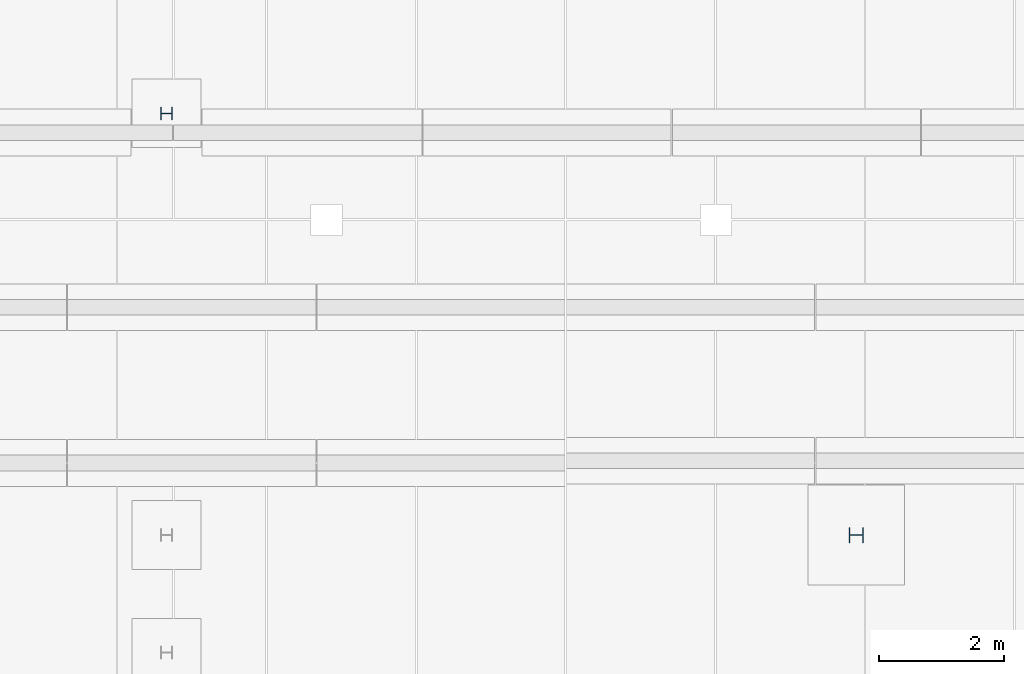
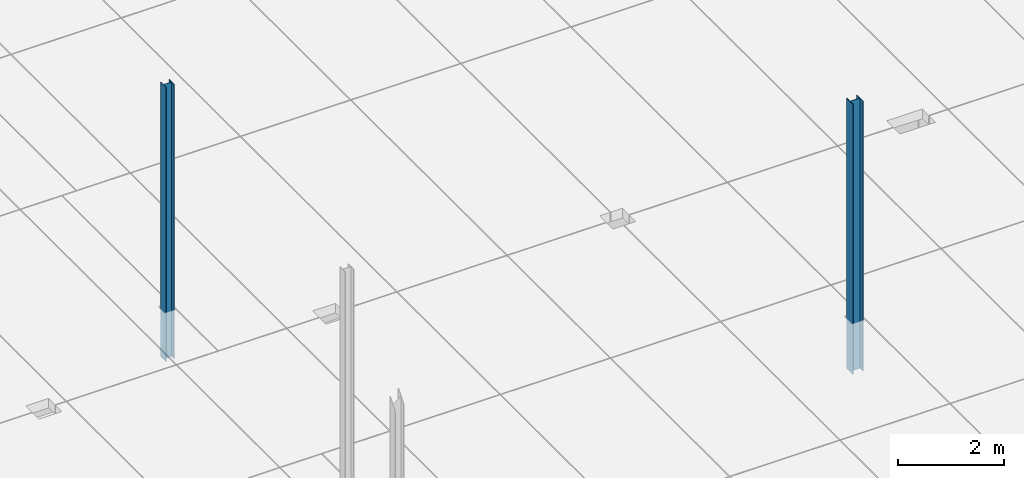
# One storey, part 29 of 59: 2 columns.
"""IFC2X3 building model written with IfcOpenShell, lengths in metres."""

from ifc_helpers import new_model, entity, si_unit, converted_unit, derived_unit, frame, origin, origin_with_axes, place, context, subcontext, project, spatial, polyline, outline, extrude, material, element, save


model = new_model("IFC2X3")

# Units and contexts
model_context = context("Model", 3, precision=1e-05, world=origin())
body_context = subcontext(model_context, "Body", "Model", "MODEL_VIEW")
ifc_project = project(units=[si_unit("LENGTHUNIT", "METRE"), si_unit("AREAUNIT", "SQUARE_METRE"), si_unit("VOLUMEUNIT", "CUBIC_METRE"), si_unit("MASSUNIT", "GRAM", prefix="KILO"), converted_unit("PLANEANGLEUNIT", "DEGREE", entity("IfcPlaneAngleMeasure", 0.0174532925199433), si_unit("PLANEANGLEUNIT", "RADIAN"), dimensions=[0, 0, 0, 0, 0, 0, 0]), derived_unit("THERMALTRANSMITTANCEUNIT", [(si_unit("POWERUNIT", "WATT"), 1), (si_unit("THERMODYNAMICTEMPERATUREUNIT", "KELVIN"), -1), (si_unit("LENGTHUNIT", "METRE"), -2)]), derived_unit("VOLUMETRICFLOWRATEUNIT", [(si_unit("LENGTHUNIT", "METRE"), 3), (converted_unit("TIMEUNIT", "hour", entity("IfcTimeMeasure", 3600.0), si_unit("TIMEUNIT", "SECOND"), dimensions=[0, 0, 1, 0, 0, 0, 0]), -1), (si_unit("LENGTHUNIT", "METRE"), -1)])], contexts=[model_context])

# Site, building, storey
site_placement = place(None, origin())
site = spatial("IfcSite", under=ifc_project, at=site_placement, Name="TWP_Speiseverteilzentrum SBW VZ II", CompositionType="ELEMENT")
building_placement = place(site_placement, origin())
building = spatial("IfcBuilding", under=site, at=building_placement, Name="Speiseverteilzentrum SBW VZ II", CompositionType="ELEMENT")
storey_placement = place(building_placement, frame((0.0, 0.0, 1.7307)))
storey = spatial("IfcBuildingStorey", under=building, at=storey_placement, Name="EG_Produktion_FFB", CompositionType="ELEMENT", Elevation=1.7307)

# Columns
ifc_material_1 = material(Name="S235")
column_1_placement = place(storey_placement, frame((62.1345010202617, 65.2245685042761, -1.45)))
element("IfcColumn", 1, at=column_1_placement, inside=storey, material=ifc_material_1, Name="Stahlstütze", context=body_context, shape_type="SweptSolid", body=[
    extrude(outline(polyline([(0.23, 0.0), (0.23, 0.24), (0.218, 0.24), (0.218, 0.12375), (0.012, 0.12375), (0.012, 0.24), (0.0, 0.24), (0.0, 0.0), (0.012, 0.0), (0.012, 0.11625), (0.218, 0.11625), (0.218, 0.0), (0.23, 0.0)])), origin_with_axes(), (0.0, 0.0, 1.0), 6.22),
])
ifc_material_2 = material(Name="S235")
column_2_placement = place(storey_placement, frame((51.0896046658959, 72.0095015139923, -1.4)))
element("IfcColumn", 2, at=column_2_placement, inside=storey, material=ifc_material_2, Name="Stahlstütze", context=body_context, shape_type="SweptSolid", body=[
    extrude(outline(polyline([(0.19, 0.0), (0.19, 0.2), (0.18, 0.2), (0.18, 0.10325), (0.01, 0.10325), (0.01, 0.2), (0.0, 0.2), (0.0, 0.0), (0.01, 0.0), (0.01, 0.09675), (0.18, 0.09675), (0.18, 0.0), (0.19, 0.0)])), origin_with_axes(), (0.0, 0.0, 1.0), 6.32),
])

save(model, "model.ifc")
